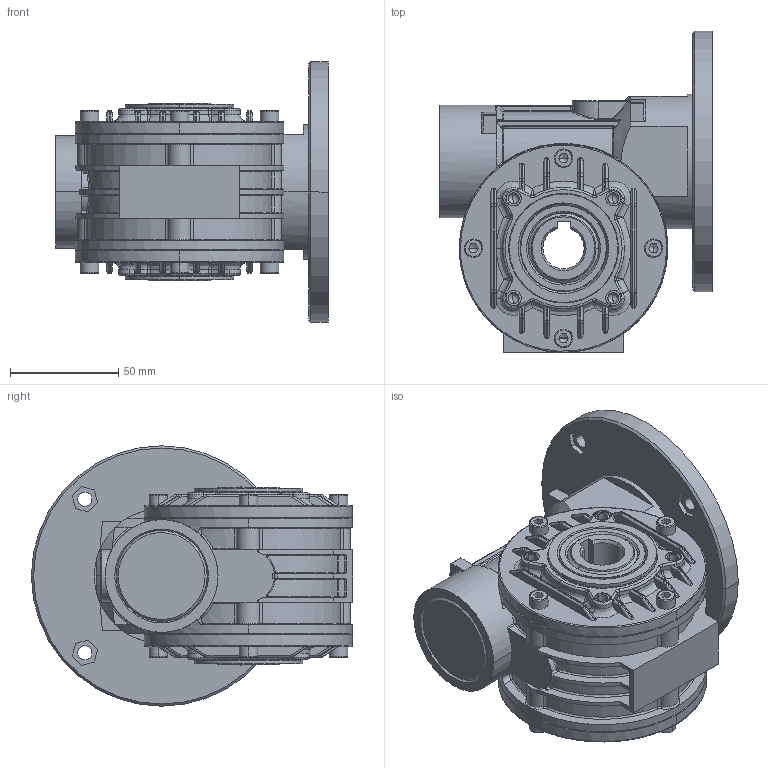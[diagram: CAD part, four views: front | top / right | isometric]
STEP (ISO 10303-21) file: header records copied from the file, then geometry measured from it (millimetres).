
FILE_DESCRIPTION (( 'STEP AP203' ), '1' );
FILE_NAME ('3F002021.STEP', '2012-07-23T04:58:58', ( 'Amministratore' ), ( 'SerteK sas' ), 'SwSTEP 2.0', 'SolidWorks 2009', '' );
FILE_SCHEMA (( 'CONFIG_CONTROL_DESIGN' ));
Length unit declared in the file: millimetre
Products named in the file (1): 3F002021
Bounding box: 125.5 x 148 x 120 mm (x, y, z)
Surface area: 182267.4 mm2 (no closed solid volume)
Topology: 0 solids, 32 shells, 1876 faces, 4846 edges, 3056 vertices
Faces by surface type: cylinder 698, bspline 497, plane 494, cone 187
Entity records: 93386 total; most frequent: CARTESIAN_POINT 52313, ORIENTED_EDGE 9518, DIRECTION 7235, EDGE_CURVE 4771, VERTEX_POINT 3060, AXIS2_PLACEMENT_3D 2852, EDGE_LOOP 2043, ADVANCED_FACE 1876
